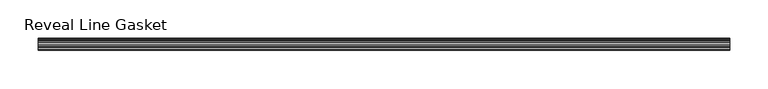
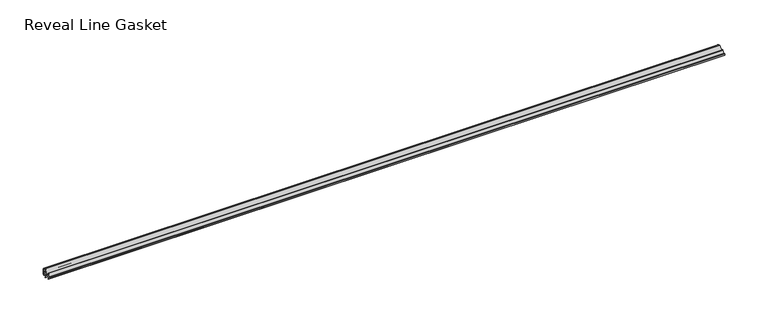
"""IFC4 building model written with IfcOpenShell, lengths in millimetres: proxy geometry, Accessories-Teknion-FHGR-AI_Healthcare-Reveal_Line_Gasket(Horizontal)-R2022 : Reveal Line Gasket."""

from ifc_helpers import new_model, si_unit, point, frame, frame_2d, origin, place, context, project, spatial, polyline, circle_curve, trimmed, segment, composite_curve, outline, extrude, source, transform, mapped, element, save


def reveal_line_gasket_00b5c2a2(model_context):
    return source(origin(), model_context, "Body", "SweptSolid", [
        extrude(outline(composite_curve([segment(polyline([(7.6326998, 1603.2), (7.6326998, 1597.2), (7.4091917, 1596.2445073), (6.8813059, 1595.3115316)]), True, "CONTINUOUS"), segment(trimmed(circle_curve(frame_2d((6.5243141, 1595.5135207)), 0.4101739), [point((6.8813059, 1595.3115316))], [point((6.1246704, 1595.6058653))], False, "CARTESIAN"), True, "CONTINUOUS"), segment(polyline([(6.1246704, 1595.6058653), (6.3626997, 1597.3020914), (6.3626997, 1599.3345473)]), True, "CONTINUOUS"), segment(trimmed(circle_curve(frame_2d((5.6959605, 1598.9180742)), 0.786124), [point((6.3626997, 1599.3345473))], [point((5.0926996, 1599.422125))], True, "CARTESIAN"), True, "CONTINUOUS"), segment(polyline([(5.0926996, 1599.422125), (0.7492996, 1599.422125), (3.7293824, 1594.2604705)]), True, "CONTINUOUS"), segment(trimmed(circle_curve(frame_2d((3.3132479, 1594.1950239)), 0.4212495), [point((3.7293824, 1594.2604705))], [point((3.0485022, 1593.8673642))], False, "CARTESIAN"), True, "CONTINUOUS"), segment(polyline([(3.0485022, 1593.8673642), (-0.5742594, 1599.422125), (-4.8262978, 1599.422125), (-3.1660374, 1596.5464703)]), True, "CONTINUOUS"), segment(trimmed(circle_curve(frame_2d((-3.5978728, 1596.4881145)), 0.4357605), [point((-3.1660374, 1596.5464703))], [point((-3.864328, 1596.1433119))], False, "CARTESIAN"), True, "CONTINUOUS"), segment(polyline([(-3.864328, 1596.1433119), (-6.1944059, 1599.422125), (-7.6326998, 1599.422125), (-7.6326998, 1600.977875), (-6.1944059, 1600.977875), (-3.864328, 1604.2566881)]), True, "CONTINUOUS"), segment(trimmed(circle_curve(frame_2d((-3.5978728, 1603.9118855)), 0.4357605), [point((-3.864328, 1604.2566881))], [point((-3.1660374, 1603.8535297))], False, "CARTESIAN"), True, "CONTINUOUS"), segment(polyline([(-3.1660374, 1603.8535297), (-4.8262978, 1600.977875), (-0.5742594, 1600.977875), (3.0485022, 1606.5326358)]), True, "CONTINUOUS"), segment(trimmed(circle_curve(frame_2d((3.3132479, 1606.2049761)), 0.4212495), [point((3.0485022, 1606.5326358))], [point((3.7293824, 1606.1395295))], False, "CARTESIAN"), True, "CONTINUOUS"), segment(polyline([(3.7293824, 1606.1395295), (0.7492996, 1600.977875), (5.0926996, 1600.977875)]), True, "CONTINUOUS"), segment(trimmed(circle_curve(frame_2d((5.6959605, 1601.4819258)), 0.786124), [point((5.0926996, 1600.977875))], [point((6.3626997, 1601.0654527))], True, "CARTESIAN"), True, "CONTINUOUS"), segment(polyline([(6.3626997, 1601.0654527), (6.3626997, 1603.0979086), (6.1246704, 1604.7941347)]), True, "CONTINUOUS"), segment(trimmed(circle_curve(frame_2d((6.5243141, 1604.8864793)), 0.4101739), [point((6.1246704, 1604.7941347))], [point((6.8813059, 1605.0884684))], False, "CARTESIAN"), True, "CONTINUOUS"), segment(polyline([(6.8813059, 1605.0884684), (7.4091917, 1604.1554927), (7.6326998, 1603.2)]), True, "CONTINUOUS")], self_intersect=False)), frame((-448.9044872, 0.0, 0.0), z_axis=(1.0, 0.0, 0.0), x_axis=(0.0, 1.0, 0.0)), (0.0, 0.0, 1.0), 897.8089744),
    ])


if __name__ == "__main__":
    model = new_model("IFC4")
    model_context = context("Model", 3, world=origin())
    ifc_project = project(units=[si_unit("LENGTHUNIT", "METRE", prefix="MILLI")], contexts=[model_context])
    site = spatial("IfcSite", under=ifc_project)
    building = spatial("IfcBuilding", under=site)
    placement = place(None, origin())
    reveal_line_gasket_shape = reveal_line_gasket_00b5c2a2(model_context)
    element("IfcBuildingElementProxy", 1, Name="Accessories-Teknion-FHGR-AI_Healthcare-Reveal_Line_Gasket(Horizontal)-R2022 : Reveal Line Gasket", ObjectType="Accessories-Teknion-FHGR-AI_Healthcare-Reveal_Line_Gasket(Horizontal)-R2022 : Reveal Line Gasket", at=placement, inside=building, context=model_context, shape_type="MappedRepresentation", body=[
        mapped(reveal_line_gasket_shape, transform((0.0, 0.0, 0.0), x_axis=(1.0, 0.0, 0.0), y_axis=(0.0, 1.0, 0.0), z_axis=(0.0, 0.0, 1.0))),
    ])
    save(model, "model.ifc")
